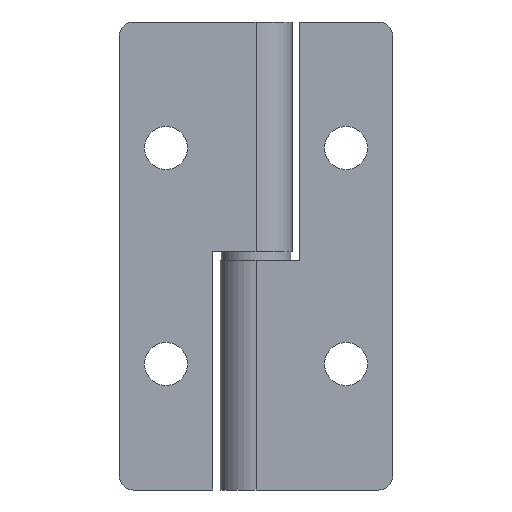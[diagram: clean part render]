
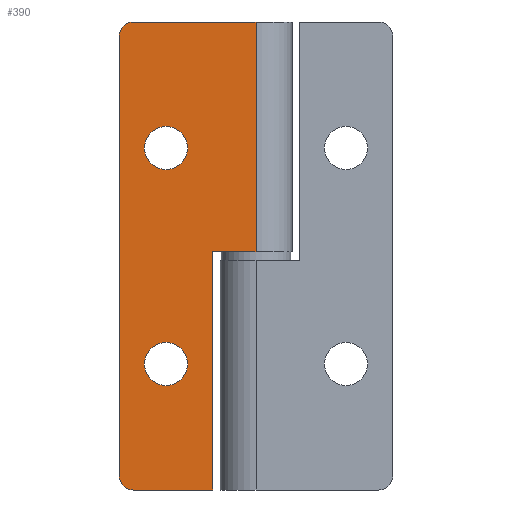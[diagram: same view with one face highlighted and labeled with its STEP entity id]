
A CAD part, front view. The second image highlights one B-rep face of the part: STEP entity #390.
In plain terms, the highlighted planar face has unit normal (0, -1, 0).
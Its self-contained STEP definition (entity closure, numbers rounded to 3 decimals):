
#78 = LINE ( 'NONE', #1370, #527 ) ;
#85 = VECTOR ( 'NONE', #1981, 1000. ) ;
#87 = DIRECTION ( 'NONE',  ( -1., 0., 0. ) ) ;
#89 = LINE ( 'NONE', #1983, #85 ) ;
#90 = DIRECTION ( 'NONE',  ( 0., 1., 0. ) ) ;
#93 = CARTESIAN_POINT ( 'NONE',  ( -12.5, -5., 15. ) ) ;
#100 = AXIS2_PLACEMENT_3D ( 'NONE', #1851, #1850, #1848 ) ;
#120 = AXIS2_PLACEMENT_3D ( 'NONE', #787, #768, #716 ) ;
#124 = AXIS2_PLACEMENT_3D ( 'NONE', #1082, #981, #956 ) ;
#125 = DIRECTION ( 'NONE',  ( -1., 0., 0. ) ) ;
#127 = DIRECTION ( 'NONE',  ( 0., 1., 0. ) ) ;
#129 = CARTESIAN_POINT ( 'NONE',  ( -12.5, -5., -15. ) ) ;
#137 = DIRECTION ( 'NONE',  ( -1., 0., 0. ) ) ;
#138 = DIRECTION ( 'NONE',  ( 0., -1., 0. ) ) ;
#142 = ORIENTED_EDGE ( 'NONE', *, *, #993, .F. ) ;
#143 = CARTESIAN_POINT ( 'NONE',  ( -17., -5., -30.5 ) ) ;
#172 = DIRECTION ( 'NONE',  ( -1., 0., 0. ) ) ;
#178 = DIRECTION ( 'NONE',  ( 0., 1., 0. ) ) ;
#187 = PLANE ( 'NONE',  #423 ) ;
#206 = CARTESIAN_POINT ( 'NONE',  ( 0., -5., 32.5 ) ) ;
#214 = CARTESIAN_POINT ( 'NONE',  ( -6., -5., 0.6 ) ) ;
#220 = CARTESIAN_POINT ( 'NONE',  ( -9.5, -5., 15. ) ) ;
#258 = EDGE_LOOP ( 'NONE', ( #1217, #840 ) ) ;
#264 = VERTEX_POINT ( 'NONE', #220 ) ;
#334 = VERTEX_POINT ( 'NONE', #214 ) ;
#389 = CIRCLE ( 'NONE', #124, 3. ) ;
#390 = ADVANCED_FACE ( 'NONE', ( #727, #784, #739 ), #187, .F. ) ;
#400 = AXIS2_PLACEMENT_3D ( 'NONE', #93, #90, #87 ) ;
#404 = AXIS2_PLACEMENT_3D ( 'NONE', #129, #127, #125 ) ;
#423 = AXIS2_PLACEMENT_3D ( 'NONE', #206, #178, #172 ) ;
#435 = DIRECTION ( 'NONE',  ( 1., 0., 0. ) ) ;
#458 = EDGE_CURVE ( 'NONE', #634, #1942, #703, .T. ) ;
#459 = EDGE_CURVE ( 'NONE', #1072, #1965, #688, .T. ) ;
#475 = EDGE_CURVE ( 'NONE', #264, #2131, #669, .T. ) ;
#479 = CARTESIAN_POINT ( 'NONE',  ( 0., -5., -32.5 ) ) ;
#508 = DIRECTION ( 'NONE',  ( 0., 0., -1. ) ) ;
#527 = VECTOR ( 'NONE', #508, 1000. ) ;
#557 = EDGE_CURVE ( 'NONE', #1208, #334, #589, .T. ) ;
#577 = VECTOR ( 'NONE', #1014, 1000. ) ;
#589 = LINE ( 'NONE', #1020, #577 ) ;
#634 = VERTEX_POINT ( 'NONE', #758 ) ;
#669 = CIRCLE ( 'NONE', #400, 3. ) ;
#686 = EDGE_LOOP ( 'NONE', ( #1676, #1552, #1908, #1927, #718, #142, #2189, #1821 ) ) ;
#688 = CIRCLE ( 'NONE', #404, 3. ) ;
#703 = CIRCLE ( 'NONE', #1377, 2. ) ;
#716 = DIRECTION ( 'NONE',  ( -1., 0., 0. ) ) ;
#718 = ORIENTED_EDGE ( 'NONE', *, *, #994, .T. ) ;
#727 = FACE_BOUND ( 'NONE', #2004, .T. ) ;
#739 = FACE_OUTER_BOUND ( 'NONE', #686, .T. ) ;
#758 = CARTESIAN_POINT ( 'NONE',  ( -19., -5., -30.5 ) ) ;
#768 = DIRECTION ( 'NONE',  ( 0., 1., 0. ) ) ;
#784 = FACE_BOUND ( 'NONE', #258, .T. ) ;
#787 = CARTESIAN_POINT ( 'NONE',  ( -12.5, -5., -15. ) ) ;
#840 = ORIENTED_EDGE ( 'NONE', *, *, #459, .T. ) ;
#895 = EDGE_CURVE ( 'NONE', #2083, #1208, #89, .T. ) ;
#942 = LINE ( 'NONE', #479, #1146 ) ;
#956 = DIRECTION ( 'NONE',  ( -1., 0., 0. ) ) ;
#979 = EDGE_CURVE ( 'NONE', #2131, #264, #389, .T. ) ;
#980 = EDGE_CURVE ( 'NONE', #1965, #1072, #1805, .T. ) ;
#981 = DIRECTION ( 'NONE',  ( 0., 1., 0. ) ) ;
#984 = ORIENTED_EDGE ( 'NONE', *, *, #475, .T. ) ;
#993 = EDGE_CURVE ( 'NONE', #334, #1251, #78, .T. ) ;
#994 = EDGE_CURVE ( 'NONE', #1942, #1251, #942, .T. ) ;
#1003 = EDGE_CURVE ( 'NONE', #2073, #1341, #1741, .T. ) ;
#1007 = EDGE_CURVE ( 'NONE', #2073, #2083, #1994, .T. ) ;
#1014 = DIRECTION ( 'NONE',  ( -1., 0., 0. ) ) ;
#1020 = CARTESIAN_POINT ( 'NONE',  ( 5., -5., 0.6 ) ) ;
#1072 = VERTEX_POINT ( 'NONE', #1763 ) ;
#1082 = CARTESIAN_POINT ( 'NONE',  ( -12.5, -5., 15. ) ) ;
#1146 = VECTOR ( 'NONE', #435, 1000. ) ;
#1183 = VECTOR ( 'NONE', #1658, 1000. ) ;
#1208 = VERTEX_POINT ( 'NONE', #1702 ) ;
#1217 = ORIENTED_EDGE ( 'NONE', *, *, #980, .T. ) ;
#1251 = VERTEX_POINT ( 'NONE', #1687 ) ;
#1341 = VERTEX_POINT ( 'NONE', #1663 ) ;
#1352 = EDGE_CURVE ( 'NONE', #1341, #634, #1753, .T. ) ;
#1370 = CARTESIAN_POINT ( 'NONE',  ( -6., -5., -32.5 ) ) ;
#1377 = AXIS2_PLACEMENT_3D ( 'NONE', #143, #138, #137 ) ;
#1401 = CARTESIAN_POINT ( 'NONE',  ( -15.5, -5., 15. ) ) ;
#1409 = CARTESIAN_POINT ( 'NONE',  ( -17., -5., 32.5 ) ) ;
#1429 = CARTESIAN_POINT ( 'NONE',  ( 0., -5., 32.5 ) ) ;
#1460 = CARTESIAN_POINT ( 'NONE',  ( -17., -5., -32.5 ) ) ;
#1469 = CARTESIAN_POINT ( 'NONE',  ( -15.5, -5., -15. ) ) ;
#1552 = ORIENTED_EDGE ( 'NONE', *, *, #1003, .T. ) ;
#1652 = CARTESIAN_POINT ( 'NONE',  ( -19., -5., 32.5 ) ) ;
#1658 = DIRECTION ( 'NONE',  ( 0., 0., -1. ) ) ;
#1663 = CARTESIAN_POINT ( 'NONE',  ( -19., -5., 30.5 ) ) ;
#1676 = ORIENTED_EDGE ( 'NONE', *, *, #1007, .F. ) ;
#1686 = VECTOR ( 'NONE', #1861, 1000. ) ;
#1687 = CARTESIAN_POINT ( 'NONE',  ( -6., -5., -32.5 ) ) ;
#1702 = CARTESIAN_POINT ( 'NONE',  ( 0., -5., 0.6 ) ) ;
#1741 = CIRCLE ( 'NONE', #100, 2. ) ;
#1753 = LINE ( 'NONE', #1652, #1183 ) ;
#1763 = CARTESIAN_POINT ( 'NONE',  ( -9.5, -5., -15. ) ) ;
#1805 = CIRCLE ( 'NONE', #120, 3. ) ;
#1821 = ORIENTED_EDGE ( 'NONE', *, *, #895, .F. ) ;
#1848 = DIRECTION ( 'NONE',  ( -1., 0., 0. ) ) ;
#1850 = DIRECTION ( 'NONE',  ( 0., -1., 0. ) ) ;
#1851 = CARTESIAN_POINT ( 'NONE',  ( -17., -5., 30.5 ) ) ;
#1852 = CARTESIAN_POINT ( 'NONE',  ( 0., -5., 32.5 ) ) ;
#1861 = DIRECTION ( 'NONE',  ( 1., 0., 0. ) ) ;
#1908 = ORIENTED_EDGE ( 'NONE', *, *, #1352, .T. ) ;
#1927 = ORIENTED_EDGE ( 'NONE', *, *, #458, .T. ) ;
#1942 = VERTEX_POINT ( 'NONE', #1460 ) ;
#1965 = VERTEX_POINT ( 'NONE', #1469 ) ;
#1981 = DIRECTION ( 'NONE',  ( 0., 0., -1. ) ) ;
#1983 = CARTESIAN_POINT ( 'NONE',  ( 0., -5., 32.5 ) ) ;
#1994 = LINE ( 'NONE', #1852, #1686 ) ;
#2004 = EDGE_LOOP ( 'NONE', ( #2099, #984 ) ) ;
#2073 = VERTEX_POINT ( 'NONE', #1409 ) ;
#2083 = VERTEX_POINT ( 'NONE', #1429 ) ;
#2099 = ORIENTED_EDGE ( 'NONE', *, *, #979, .T. ) ;
#2131 = VERTEX_POINT ( 'NONE', #1401 ) ;
#2189 = ORIENTED_EDGE ( 'NONE', *, *, #557, .F. ) ;
